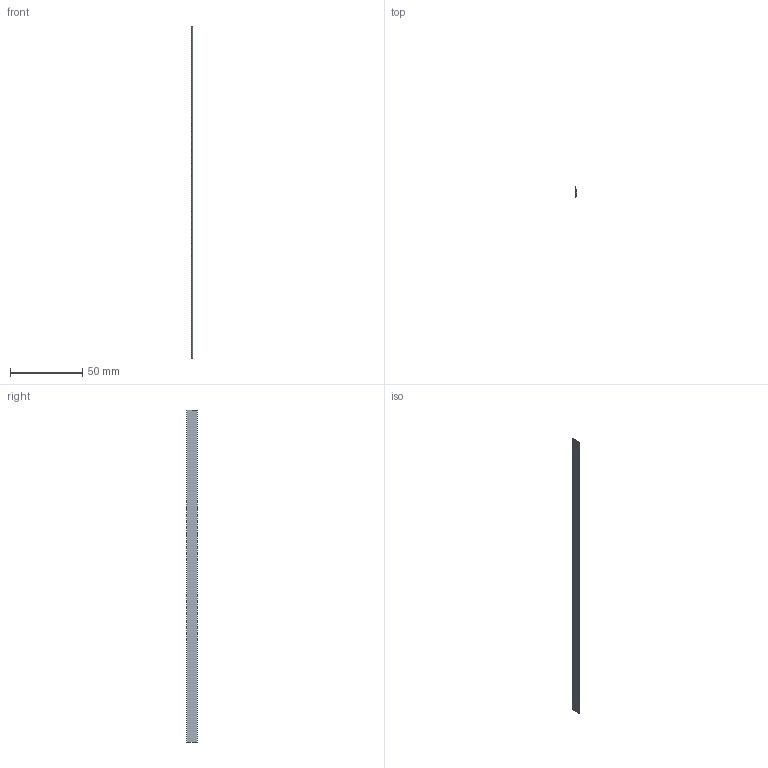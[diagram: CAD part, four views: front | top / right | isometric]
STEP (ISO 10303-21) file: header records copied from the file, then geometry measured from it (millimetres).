
FILE_DESCRIPTION(('BRL-CAD AP214 endpoint-anchored measured surface tolerance fixture'),'2;1');
FILE_NAME('ap214_endpoint_anchored_surface_tolerance.stp','2026-07-23T00:00:00',('BRL-CAD'),('BRL-CAD'),'','','');
FILE_SCHEMA(('AUTOMOTIVE_DESIGN { 1 0 10303 214 3 1 1 1 }'));
Length unit declared in the file: millimetre
Products named in the file (1): endpoint_anchored_surface_tolerance
Bounding box: 0.84 x 7.39 x 230 mm (x, y, z)
Volume: 315.1 mm3; surface area: 3409.7 mm2
Topology: 1 solids, 1 shells, 4 faces, 6 edges, 4 vertices
Faces by surface type: plane 3, cylinder 1
Entity records: 106 total; most frequent: CARTESIAN_POINT 39, ORIENTED_EDGE 12, EDGE_CURVE 6, DIRECTION 4, AXIS2_PLACEMENT_3D 4, VERTEX_POINT 4, LINE 4, EDGE_LOOP 4
